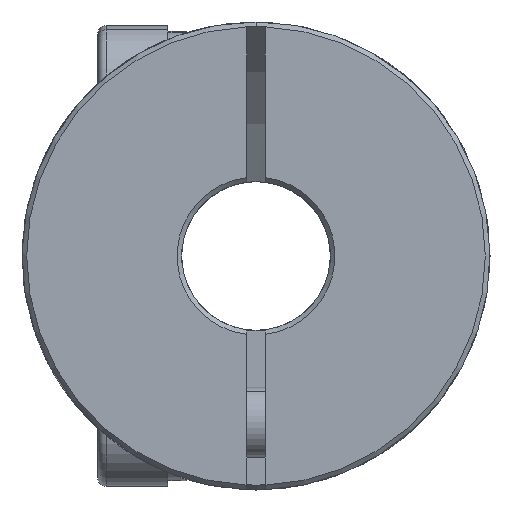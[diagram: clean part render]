
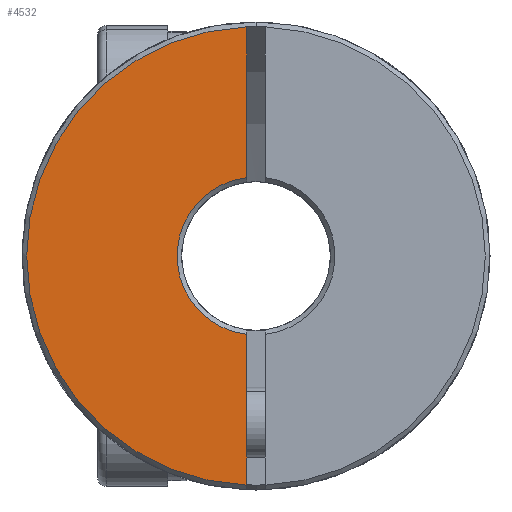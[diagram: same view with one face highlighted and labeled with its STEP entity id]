
A CAD part, front view. The second image highlights one B-rep face of the part: STEP entity #4532.
In plain terms, the highlighted planar face has unit normal (0, -1, 0).
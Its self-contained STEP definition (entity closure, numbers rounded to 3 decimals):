
#209 = LINE ( 'NONE', #4728, #1139 ) ;
#258 = DIRECTION ( 'NONE',  ( 0., 0., -1. ) ) ;
#621 = DIRECTION ( 'NONE',  ( 0., 1., 0. ) ) ;
#1078 = CARTESIAN_POINT ( 'NONE',  ( -0.4, -17.5, -3.351 ) ) ;
#1139 = VECTOR ( 'NONE', #5797, 1000. ) ;
#1442 = AXIS2_PLACEMENT_3D ( 'NONE', #4688, #4656, #6946 ) ;
#2077 = VERTEX_POINT ( 'NONE', #3787 ) ;
#2163 = CARTESIAN_POINT ( 'NONE',  ( -0.4, -17.5, -9.792 ) ) ;
#2608 = CARTESIAN_POINT ( 'NONE',  ( -0.4, -17.5, 0. ) ) ;
#2617 = ORIENTED_EDGE ( 'NONE', *, *, #3438, .T. ) ;
#2822 = AXIS2_PLACEMENT_3D ( 'NONE', #6673, #5031, #3250 ) ;
#3089 = LINE ( 'NONE', #2608, #4702 ) ;
#3250 = DIRECTION ( 'NONE',  ( 0., 0., 1. ) ) ;
#3285 = CIRCLE ( 'NONE', #2822, 3.375 ) ;
#3321 = EDGE_CURVE ( 'NONE', #2077, #4242, #3816, .T. ) ;
#3438 = EDGE_CURVE ( 'NONE', #3812, #6021, #3285, .T. ) ;
#3787 = CARTESIAN_POINT ( 'NONE',  ( -0.4, -17.5, 9.792 ) ) ;
#3812 = VERTEX_POINT ( 'NONE', #1078 ) ;
#3816 = CIRCLE ( 'NONE', #1442, 9.8 ) ;
#3923 = CARTESIAN_POINT ( 'NONE',  ( -0.4, -17.5, 3.351 ) ) ;
#3930 = EDGE_CURVE ( 'NONE', #3812, #4242, #209, .T. ) ;
#4242 = VERTEX_POINT ( 'NONE', #2163 ) ;
#4500 = ORIENTED_EDGE ( 'NONE', *, *, #3930, .F. ) ;
#4502 = AXIS2_PLACEMENT_3D ( 'NONE', #5201, #621, #4631 ) ;
#4532 = ADVANCED_FACE ( 'NONE', ( #7437 ), #5234, .F. ) ;
#4586 = EDGE_LOOP ( 'NONE', ( #5543, #6786, #4500, #2617 ) ) ;
#4631 = DIRECTION ( 'NONE',  ( 0., 0., 1. ) ) ;
#4656 = DIRECTION ( 'NONE',  ( 0., -1., 0. ) ) ;
#4688 = CARTESIAN_POINT ( 'NONE',  ( 0., -17.5, 0. ) ) ;
#4702 = VECTOR ( 'NONE', #258, 1000. ) ;
#4728 = CARTESIAN_POINT ( 'NONE',  ( -0.4, -17.5, 0. ) ) ;
#5031 = DIRECTION ( 'NONE',  ( 0., 1., 0. ) ) ;
#5201 = CARTESIAN_POINT ( 'NONE',  ( 0., -17.5, 0. ) ) ;
#5234 = PLANE ( 'NONE',  #4502 ) ;
#5543 = ORIENTED_EDGE ( 'NONE', *, *, #5702, .F. ) ;
#5702 = EDGE_CURVE ( 'NONE', #2077, #6021, #3089, .T. ) ;
#5797 = DIRECTION ( 'NONE',  ( 0., 0., -1. ) ) ;
#6021 = VERTEX_POINT ( 'NONE', #3923 ) ;
#6673 = CARTESIAN_POINT ( 'NONE',  ( 0., -17.5, 0. ) ) ;
#6786 = ORIENTED_EDGE ( 'NONE', *, *, #3321, .T. ) ;
#6946 = DIRECTION ( 'NONE',  ( 0., 0., 1. ) ) ;
#7437 = FACE_OUTER_BOUND ( 'NONE', #4586, .T. ) ;
